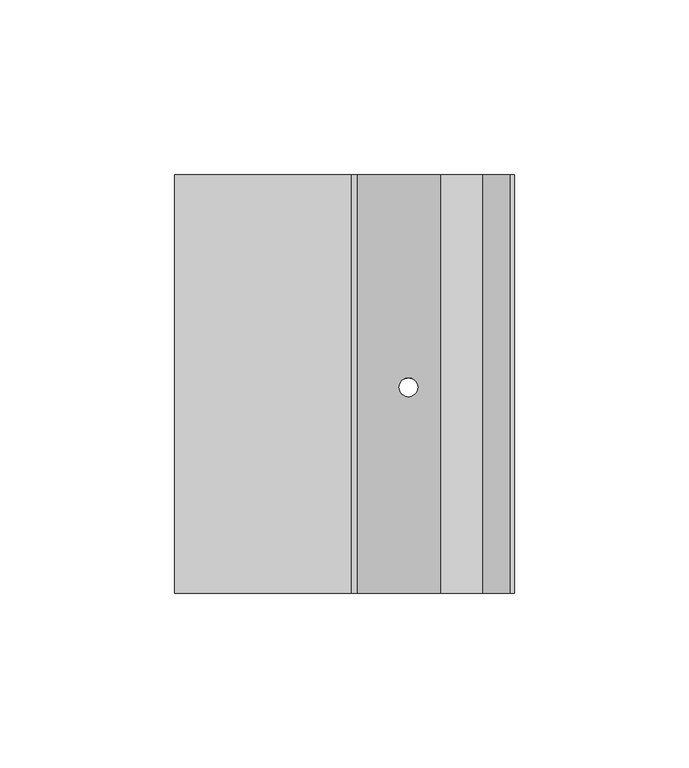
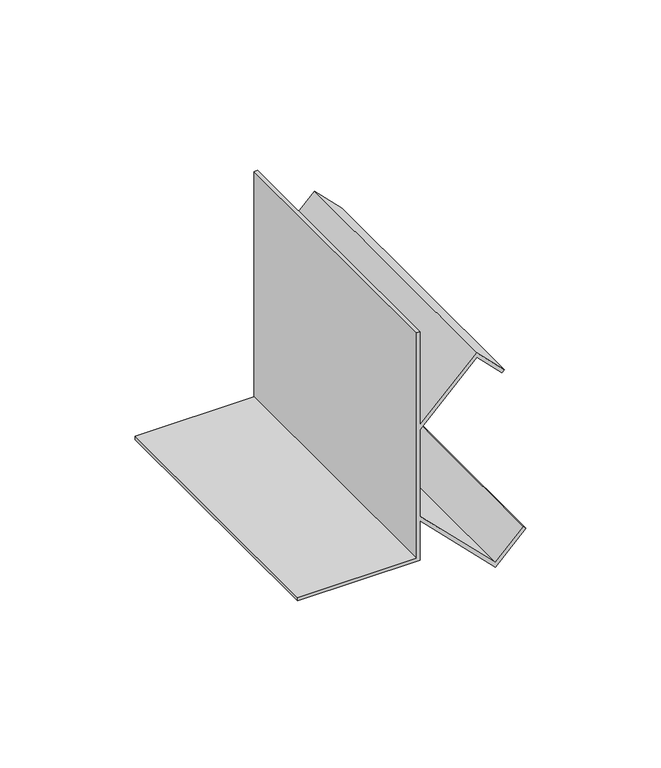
"""IFC4 building model written with IfcOpenShell, lengths in millimetres: proxy geometry, Mechanical Fittings & Accessories7 : Mechanical Fittings & Accessories."""

import ifcopenshell
import ifcopenshell.guid

model = None  # the IFC model being written
_history = None  # IfcOwnerHistory: only IFC2X3 demands one
_inside = {}  # id of a spatial element -> (the spatial element, [elements in it])
_under = {}  # id of a project, library or spatial element -> (it, [spatial elements below it])
_declared = {}  # id of a project -> (the project, [libraries it declares])
_typed = {}  # id of a type object -> (the type object, [elements of that type])
_made_of = {}  # id of a material, layer set ... -> (it, [elements and type objects made of it])


def new_model(schema):
    """Start an empty IFC model of exactly this schema.

    Asked for "IFC4X3", IfcOpenShell would pick the latest addendum, in which some entities
    have other attributes; the version numbers below select the first issue.
    IFC2X3 requires an IfcOwnerHistory on every rooted entity: one is made here for all.
    """
    global model, _history
    if schema == "IFC4X3":
        model = ifcopenshell.file(schema_version=(4, 3, 0, 0))
    else:
        model = ifcopenshell.file(schema=schema)
    _inside.clear()
    _under.clear()
    _declared.clear()
    _typed.clear()
    _made_of.clear()
    _history = None
    if model.schema == "IFC2X3":
        org = make("IfcOrganization", Name="unknown")
        user = make(
            "IfcPersonAndOrganization",
            ThePerson=make("IfcPerson", FamilyName="unknown"),
            TheOrganization=org,
        )
        app = make(
            "IfcApplication",
            ApplicationDeveloper=org,
            Version="unknown",
            ApplicationFullName="unknown",
            ApplicationIdentifier="unknown",
        )
        _history = make(
            "IfcOwnerHistory",
            OwningUser=user,
            OwningApplication=app,
            ChangeAction="ADDED",
            CreationDate=0,
        )
    return model


def make(cls, **values):
    """One entity of the class cls with the attributes given. An attribute that is None is left unset."""
    return model.create_entity(
        cls, **{name: value for name, value in values.items() if value is not None}
    )


def rooted(cls, **values):
    """An entity with a GlobalId (a new one), such as an element, a storey or a relation."""
    return make(cls, GlobalId=ifcopenshell.guid.new(), OwnerHistory=_history, **values)


def si_unit(unit_type, name, prefix=None):
    """IfcSIUnit, for example si_unit("LENGTHUNIT", "METRE", prefix="MILLI")."""
    return make("IfcSIUnit", UnitType=unit_type, Prefix=prefix, Name=name)


def assignment(units):
    """IfcUnitAssignment: the units of a project."""
    return None if units is None else make("IfcUnitAssignment", Units=units)


def point(xyz):
    """IfcCartesianPoint."""
    return None if xyz is None else make("IfcCartesianPoint", Coordinates=xyz)


def direction(xyz):
    """IfcDirection."""
    return None if xyz is None else make("IfcDirection", DirectionRatios=xyz)


def frame(location, z_axis=None, x_axis=None):
    """IfcAxis2Placement3D, a coordinate frame: its origin and axes. An axis left out is left unset."""
    return make(
        "IfcAxis2Placement3D",
        Location=point(location),
        Axis=direction(z_axis),
        RefDirection=direction(x_axis),
    )


def origin():
    """The frame at (0, 0, 0) with its axes left unset."""
    return frame((0.0, 0.0, 0.0))


def place(relative_to, where):
    """IfcLocalPlacement: puts the frame where relative to a parent placement (None: the world)."""
    return make(
        "IfcLocalPlacement", PlacementRelTo=relative_to, RelativePlacement=where
    )


def context(
    kind, dimensions, precision=None, world=None, true_north=None, identifier=None
):
    """IfcGeometricRepresentationContext, for example the 3D "Model" context."""
    return make(
        "IfcGeometricRepresentationContext",
        ContextIdentifier=identifier,
        ContextType=kind,
        CoordinateSpaceDimension=dimensions,
        Precision=precision,
        WorldCoordinateSystem=world,
        TrueNorth=true_north,
    )


def project(units=None, contexts=None):
    """IfcProject with its units and contexts."""
    return rooted(
        "IfcProject",
        Name="project",
        RepresentationContexts=contexts,
        UnitsInContext=assignment(units),
    )


def spatial(cls, under=None, at=None, **own):
    """A site, building, storey or space (cls), placed at a placement, below another one or the project."""
    s = rooted(cls, ObjectPlacement=at, **own)
    if under is not None:
        _under.setdefault(under.id(), (under, []))[1].append(s)
    return s


def polyline(points):
    """IfcPolyline through the points."""
    return make("IfcPolyline", Points=[point(p) for p in points])


def ellipse_curve(where, semi_axis1, semi_axis2):
    """IfcEllipse in the frame where."""
    return make(
        "IfcEllipse", Position=where, SemiAxis1=semi_axis1, SemiAxis2=semi_axis2
    )


def shape(context_of_items, identifier, shape_type, items):
    """IfcShapeRepresentation: the items that make up one representation, for example the "Body"."""
    return make(
        "IfcShapeRepresentation",
        ContextOfItems=context_of_items,
        RepresentationIdentifier=identifier,
        RepresentationType=shape_type,
        Items=items,
    )


def source(mapping_origin, context_of_items, identifier, shape_type, items):
    """IfcRepresentationMap: a shape defined once, which mapped items show again and again."""
    return make(
        "IfcRepresentationMap",
        MappingOrigin=mapping_origin,
        MappedRepresentation=shape(context_of_items, identifier, shape_type, items),
    )


def transform(
    local_origin,
    x_axis=None,
    y_axis=None,
    z_axis=None,
    scale=None,
    scale2=None,
    scale3=None,
    uniform=True,
):
    """IfcCartesianTransformationOperator3D, or its non-uniform kind. x_axis, y_axis, z_axis: its Axis1, 2, 3."""
    if uniform:
        return make(
            "IfcCartesianTransformationOperator3D",
            Axis1=direction(x_axis),
            Axis2=direction(y_axis),
            LocalOrigin=point(local_origin),
            Scale=scale,
            Axis3=direction(z_axis),
        )
    return make(
        "IfcCartesianTransformationOperator3DnonUniform",
        Axis1=direction(x_axis),
        Axis2=direction(y_axis),
        LocalOrigin=point(local_origin),
        Scale=scale,
        Axis3=direction(z_axis),
        Scale2=scale2,
        Scale3=scale3,
    )


def mapped(mapping_source, mapping_target):
    """IfcMappedItem: shows the shape of a source again, moved by a transform."""
    return make(
        "IfcMappedItem", MappingSource=mapping_source, MappingTarget=mapping_target
    )


def made_of(thing, what):
    """Note that an element or type object is made of a material, layer set ...; save() writes the relation."""
    if what is not None:
        _made_of.setdefault(what.id(), (what, []))[1].append(thing)
    return thing


def element(
    cls,
    number,
    at=None,
    inside=None,
    cuts=None,
    type_object=None,
    material=None,
    context=None,
    identifier="Body",
    shape_type=None,
    held_by="IfcProductDefinitionShape",
    body=None,
    shapes=None,
    **own,
):
    """One element of the class cls, such as IfcWall. Its Tag is "e" and its number.

    at: its placement. inside: the storey or other place that contains it. cuts: it is an
    opening in that element (IfcRelVoidsElement). A single representation is given by context,
    identifier, shape_type and body (its items); several are given by shapes. held_by: the class
    of the entity that holds the representations. save() writes the other relations.
    """
    e = rooted(cls, Tag="e%d" % number, ObjectPlacement=at, **own)
    if body is not None:
        shapes = [shape(context, identifier, shape_type, body)]
    if shapes is not None:
        e.Representation = make(held_by, Representations=shapes)
    if inside is not None:
        _inside.setdefault(inside.id(), (inside, []))[1].append(e)
    if cuts is not None:
        rooted(
            "IfcRelVoidsElement", RelatingBuildingElement=cuts, RelatedOpeningElement=e
        )
    if type_object is not None:
        _typed.setdefault(type_object.id(), (type_object, []))[1].append(e)
    return made_of(e, material)


def aggregate(whole, parts):
    """IfcRelAggregates: a whole, such as a stair, and the parts it consists of."""
    return rooted("IfcRelAggregates", RelatingObject=whole, RelatedObjects=parts)


def save(model, path):
    """Write the relations noted so far, then the file.

    IfcRelAggregates (storeys below a building ...), IfcRelContainedInSpatialStructure (elements
    in a storey), IfcRelDefinesByType, IfcRelAssociatesMaterial and IfcRelDeclares: one each for
    every whole, place, type object, material and project.
    """
    for whole, parts in _under.values():
        aggregate(whole, parts)
    for where, things in _inside.values():
        rooted(
            "IfcRelContainedInSpatialStructure",
            RelatedElements=things,
            RelatingStructure=where,
        )
    for kind, things in _typed.values():
        rooted("IfcRelDefinesByType", RelatedObjects=things, RelatingType=kind)
    for what, things in _made_of.values():
        rooted("IfcRelAssociatesMaterial", RelatedObjects=things, RelatingMaterial=what)
    for by, libraries in _declared.values():
        rooted("IfcRelDeclares", RelatingContext=by, RelatedDefinitions=libraries)
    model.write(path)


def plane_surface(at):
    """IfcPlane: the flat surface through the origin of the frame at, square to its z axis."""
    return make("IfcPlane", Position=at)


def revolved_surface(curve, axis_point, axis_direction):
    """IfcSurfaceOfRevolution: the curve turned about the line through axis_point along axis_direction."""
    return make(
        "IfcSurfaceOfRevolution",
        SweptCurve=make("IfcArbitraryOpenProfileDef", ProfileType="CURVE", Curve=curve),
        AxisPosition=make("IfcAxis1Placement", Location=point(axis_point), Axis=direction(axis_direction)),
    )


def advanced_brep(points, edges, surfaces, faces):
    """IfcAdvancedBrep: a solid bounded by faces that lie on surfaces and meet in shared edges.

    An edge is (start, end): straight between two places in points (the first is 0);
    or (start, end, curve); or (start, end, curve, False) where it runs against its curve.
    A face is (place in surfaces, loops), or (place, loops, False) where it looks against
    its surface's normal. A loop lists edges by number (the first is 1), with a minus sign
    where the edge is run from its end to its start. The first loop is the outer one.
    """
    corners = [point(p) for p in points]
    vertices = [make("IfcVertexPoint", VertexGeometry=c) for c in corners]
    made = []
    for start, end, *more in edges:
        made.append(
            make(
                "IfcEdgeCurve",
                EdgeStart=vertices[start],
                EdgeEnd=vertices[end],
                EdgeGeometry=more[0] if more else make("IfcPolyline", Points=[corners[start], corners[end]]),
                SameSense=more[1] if len(more) > 1 else True,
            )
        )
    hull = []
    for where, loops, *sense in faces:
        bounds = []
        for j, loop in enumerate(loops):
            ring = [make("IfcOrientedEdge", EdgeElement=made[abs(k) - 1], Orientation=k > 0) for k in loop]
            bounds.append(
                make(
                    "IfcFaceOuterBound" if j == 0 else "IfcFaceBound",
                    Bound=make("IfcEdgeLoop", EdgeList=ring),
                    Orientation=True,
                )
            )
        hull.append(make("IfcAdvancedFace", Bounds=bounds, FaceSurface=surfaces[where], SameSense=sense[0] if sense else True))
    return make("IfcAdvancedBrep", Outer=make("IfcClosedShell", CfsFaces=hull))


def generic_models_5d799848(model_context):
    return source(origin(), model_context, "Body", "AdvancedBrep", [
        advanced_brep(
        [(-10977.7433312, 9537.4963986, 4114.8), (-11028.5433312, 9537.4963986, 4114.8), (-11028.5433312, 9537.4963986, 4113.3117188), (-10976.25505, 9537.4963986, 4113.3117188), (-10976.25505, 9537.4963986, 4131.1383509), (-10944.145289, 9537.4963986, 4099.0285899), (-10931.1663177, 9537.4963986, 4112.0075612), (-10932.2186914, 9537.4963986, 4113.059935), (-10944.145289, 9537.4963986, 4101.1333374), (-10976.25505, 9537.4963986, 4133.2430984), (-10976.25505, 9537.4963986, 4172.2761118), (-10952.082789, 9537.4963986, 4196.4483729), (-10941.3468164, 9537.4963986, 4185.7124003), (-10940.2944427, 9537.4963986, 4186.7647741), (-10952.082789, 9537.4963986, 4198.5531204), (-10976.25505, 9537.4963986, 4174.3808594), (-10976.25505, 9537.4963986, 4216.4), (-10977.7433312, 9537.4963986, 4216.4), (-10977.7433312, 9657.4645457, 4114.8), (-10977.7433312, 9657.4645457, 4216.4), (-10976.25505, 9657.4645457, 4216.4), (-10976.25505, 9657.4645457, 4174.3808594), (-10952.082789, 9657.4645457, 4198.5531204), (-10940.2944427, 9657.4645457, 4186.7647741), (-10941.3468164, 9657.4645457, 4185.7124003), (-10952.082789, 9657.4645457, 4196.4483729), (-10976.25505, 9657.4645457, 4172.2761118), (-10976.25505, 9657.4645457, 4133.2430984), (-10944.145289, 9657.4645457, 4101.1333374), (-10932.2186914, 9657.4645457, 4113.059935), (-10931.1663177, 9657.4645457, 4112.0075612), (-10944.145289, 9657.4645457, 4099.0285899), (-10976.25505, 9657.4645457, 4131.1383509), (-10976.25505, 9657.4645457, 4113.3117188), (-11028.5433312, 9657.4645457, 4113.3117188), (-11028.5433312, 9657.4645457, 4114.8), (-10964.1411396, 9596.5191481, 4119.0244406), (-10958.8017728, 9596.5191481, 4113.6850737), (-10958.8017728, 9596.5191481, 4115.7898213), (-10964.1411396, 9596.5191481, 4121.1291881), (-10964.1411396, 9596.5191481, 4184.3900222), (-10958.8017728, 9596.5191481, 4189.729389), (-10958.8017728, 9596.5191481, 4191.8341365), (-10964.1411396, 9596.5191481, 4186.4947697)],
        [
            (0, 1),
            (1, 2),
            (2, 3),
            (3, 4),
            (4, 5),
            (5, 6),
            (6, 7),
            (7, 8),
            (8, 9),
            (9, 10),
            (10, 11),
            (11, 12),
            (12, 13),
            (13, 14),
            (14, 15),
            (15, 16),
            (16, 17),
            (17, 0),
            (18, 19),
            (19, 20),
            (20, 21),
            (21, 22),
            (22, 23),
            (23, 24),
            (24, 25),
            (25, 26),
            (26, 27),
            (27, 28),
            (28, 29),
            (29, 30),
            (30, 31),
            (31, 32),
            (32, 33),
            (33, 34),
            (34, 35),
            (35, 18),
            (0, 18),
            (35, 1),
            (34, 2),
            (33, 3),
            (32, 4),
            (31, 5),
            (36, 37, ellipse_curve(frame((-10961.4714562, 9596.5191481, 4116.3547571), z_axis=(0.7071067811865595, 0.0, 0.7071067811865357), x_axis=(-0.7071067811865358, 0.0, 0.7071067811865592)), 3.7755025, 2.6696834)),
            (37, 36, ellipse_curve(frame((-10961.4714562, 9596.5191481, 4116.3547571), z_axis=(0.7071067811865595, 0.0, 0.7071067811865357), x_axis=(-0.7071067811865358, 0.0, 0.7071067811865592)), 3.7755025, 2.6696834)),
            (30, 6),
            (29, 7),
            (28, 8),
            (27, 9),
            (38, 39, ellipse_curve(frame((-10961.4714562, 9596.5191481, 4118.4595047), z_axis=(-0.7071067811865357, 0.0, -0.7071067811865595), x_axis=(-0.7071067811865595, 0.0, 0.7071067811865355)), 3.7755025, 2.6696834)),
            (39, 38, ellipse_curve(frame((-10961.4714562, 9596.5191481, 4118.4595047), z_axis=(-0.7071067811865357, 0.0, -0.7071067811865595), x_axis=(-0.7071067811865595, 0.0, 0.7071067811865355)), 3.7755025, 2.6696834)),
            (26, 10),
            (25, 11),
            (40, 41, ellipse_curve(frame((-10961.4714562, 9596.5191481, 4187.0597056), z_axis=(-0.7071067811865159, 0.0, 0.7071067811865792), x_axis=(0.7071067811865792, 0.0, 0.7071067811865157)), 3.7755025, 2.6696834)),
            (41, 40, ellipse_curve(frame((-10961.4714562, 9596.5191481, 4187.0597056), z_axis=(-0.7071067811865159, 0.0, 0.7071067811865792), x_axis=(0.7071067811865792, 0.0, 0.7071067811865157)), 3.7755025, 2.6696834)),
            (24, 12),
            (23, 13),
            (22, 14),
            (21, 15),
            (42, 43, ellipse_curve(frame((-10961.4714562, 9596.5191481, 4189.1644531), z_axis=(0.7071067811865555, 0.0, -0.7071067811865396), x_axis=(0.7071067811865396, 0.0, 0.7071067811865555)), 3.7755025, 2.6696834)),
            (43, 42, ellipse_curve(frame((-10961.4714562, 9596.5191481, 4189.1644531), z_axis=(0.7071067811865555, 0.0, -0.7071067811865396), x_axis=(0.7071067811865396, 0.0, 0.7071067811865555)), 3.7755025, 2.6696834)),
            (20, 16),
            (19, 17),
            (36, 39),
            (38, 37),
            (40, 43),
            (42, 41),
        ],
        [
            plane_surface(frame((-11028.5433312, 9537.4963986, 4114.8), z_axis=(0.0, -1.0, 0.0), x_axis=(-1.0, 0.0, 0.0))),
            plane_surface(frame((-11028.5433312, 9657.4645457, 4114.8), z_axis=(0.0, 1.0, 0.0), x_axis=(1.0, 0.0, 0.0))),
            plane_surface(frame((-10977.7433312, 9537.4963986, 4114.8), z_axis=(0.0, 0.0, 1.0), x_axis=(0.0, 1.0, 0.0))),
            plane_surface(frame((-11028.5433312, 9537.4963986, 4114.8), z_axis=(-1.0, 0.0, 0.0), x_axis=(0.0, 1.0, 0.0))),
            plane_surface(frame((-11028.5433312, 9537.4963986, 4113.3117188), z_axis=(0.0, 0.0, -1.0), x_axis=(0.0, 1.0, 0.0))),
            plane_surface(frame((-10976.25505, 9537.4963986, 4113.3117188), z_axis=(1.0, 0.0, 0.0), x_axis=(0.0, 1.0, 0.0))),
            plane_surface(frame((-10976.25505, 9537.4963986, 4131.1383509), z_axis=(-0.7071067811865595, 0.0, -0.7071067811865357), x_axis=(0.0, 1.0, 0.0))),
            plane_surface(frame((-10944.145289, 9537.4963986, 4099.0285899), z_axis=(0.7071067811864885, 0.0, -0.7071067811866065), x_axis=(0.0, 1.0, 0.0))),
            plane_surface(frame((-10931.1663177, 9537.4963986, 4112.0075612), z_axis=(0.7071067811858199, 0.0, 0.7071067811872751), x_axis=(0.0, 1.0, 0.0))),
            plane_surface(frame((-10932.2186914, 9537.4963986, 4113.059935), z_axis=(-0.7071067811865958, 0.0, 0.7071067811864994), x_axis=(0.0, 1.0, 0.0))),
            plane_surface(frame((-10944.145289, 9537.4963986, 4101.1333374), z_axis=(0.7071067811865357, 0.0, 0.7071067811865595), x_axis=(0.0, 1.0, 0.0))),
            plane_surface(frame((-10976.25505, 9537.4963986, 4133.2430984), z_axis=(1.0, 0.0, 0.0), x_axis=(0.0, 1.0, 0.0))),
            plane_surface(frame((-10976.25505, 9537.4963986, 4172.2761118), z_axis=(0.7071067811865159, 0.0, -0.7071067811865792), x_axis=(0.0, 1.0, 0.0))),
            plane_surface(frame((-10952.082789, 9537.4963986, 4196.4483729), z_axis=(-0.7071067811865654, 0.0, -0.7071067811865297), x_axis=(0.0, 1.0, 0.0))),
            plane_surface(frame((-10941.3468164, 9537.4963986, 4185.7124003), z_axis=(0.7071067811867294, 0.0, -0.7071067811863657), x_axis=(0.0, 1.0, 0.0))),
            plane_surface(frame((-10940.2944427, 9537.4963986, 4186.7647741), z_axis=(0.707106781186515, 0.0, 0.70710678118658), x_axis=(0.0, 1.0, 0.0))),
            plane_surface(frame((-10952.082789, 9537.4963986, 4198.5531204), z_axis=(-0.7071067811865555, 0.0, 0.7071067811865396), x_axis=(0.0, 1.0, 0.0))),
            plane_surface(frame((-10976.25505, 9537.4963986, 4174.3808594), z_axis=(1.0, 0.0, 0.0), x_axis=(0.0, 1.0, 0.0))),
            plane_surface(frame((-10976.25505, 9537.4963986, 4216.4), z_axis=(0.0, 0.0, 1.0), x_axis=(0.0, 1.0, 0.0))),
            plane_surface(frame((-10977.7433312, 9537.4963986, 4216.4), z_axis=(-1.0, 0.0, 0.0), x_axis=(0.0, 1.0, 0.0))),
            revolved_surface(polyline([(-10958.801772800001, 9596.5191481, 4121.129188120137), (-10958.801772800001, 9596.5191481, 4113.685073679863)]), (-10961.4714562, 9596.5191481, 4097.2034211), (0.0, 0.0, 1.0)),
            revolved_surface(polyline([(-10958.801772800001, 9596.5191481, 4191.834136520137), (-10958.801772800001, 9596.5191481, 4184.390022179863)]), (-10961.4714562, 9596.5191481, 4097.2034211), (0.0, 0.0, 1.0)),
        ],
        [
            (0, [[1, 2, 3, 4, 5, 6, 7, 8, 9, 10, 11, 12, 13, 14, 15, 16, 17, 18]]),
            (1, [[19, 20, 21, 22, 23, 24, 25, 26, 27, 28, 29, 30, 31, 32, 33, 34, 35, 36]]),
            (2, [[-1, 37, -36, 38]]),
            (3, [[-2, -38, -35, 39]]),
            (4, [[-3, -39, -34, 40]]),
            (5, [[-4, -40, -33, 41]]),
            (6, [[-5, -41, -32, 42], [43, 44]]),
            (7, [[-6, -42, -31, 45]]),
            (8, [[-7, -45, -30, 46]]),
            (9, [[-8, -46, -29, 47]]),
            (10, [[-9, -47, -28, 48], [49, 50]]),
            (11, [[-10, -48, -27, 51]]),
            (12, [[-11, -51, -26, 52], [53, 54]]),
            (13, [[-12, -52, -25, 55]]),
            (14, [[-13, -55, -24, 56]]),
            (15, [[-14, -56, -23, 57]]),
            (16, [[-15, -57, -22, 58], [59, 60]]),
            (17, [[-16, -58, -21, 61]]),
            (18, [[-17, -61, -20, 62]]),
            (19, [[-18, -62, -19, -37]]),
            (20, [[63, -49, 64, -43]]),
            (21, [[65, -59, 66, -53]]),
            (20, [[-63, -44, -64, -50]]),
            (21, [[-65, -54, -66, -60]]),
        ],
    ),
    ])


if __name__ == "__main__":
    model = new_model("IFC4")
    model_context = context("Model", 3, world=origin())
    ifc_project = project(units=[si_unit("LENGTHUNIT", "METRE", prefix="MILLI")], contexts=[model_context])
    site = spatial("IfcSite", under=ifc_project)
    building = spatial("IfcBuilding", under=site)
    placement = place(None, origin())
    generic_models_shape = generic_models_5d799848(model_context)
    element("IfcBuildingElementProxy", 1, Name="Mechanical Fittings & Accessories7 : Mechanical Fittings & Accessories", ObjectType="Mechanical Fittings & Accessories7 : Mechanical Fittings & Accessories", at=placement, inside=building, context=model_context, shape_type="MappedRepresentation", body=[
        mapped(generic_models_shape, transform((0.0, 0.0, 0.0), x_axis=(1.0, 0.0, 0.0), y_axis=(0.0, 1.0, 0.0), z_axis=(0.0, 0.0, 1.0))),
    ])
    save(model, "model.ifc")
